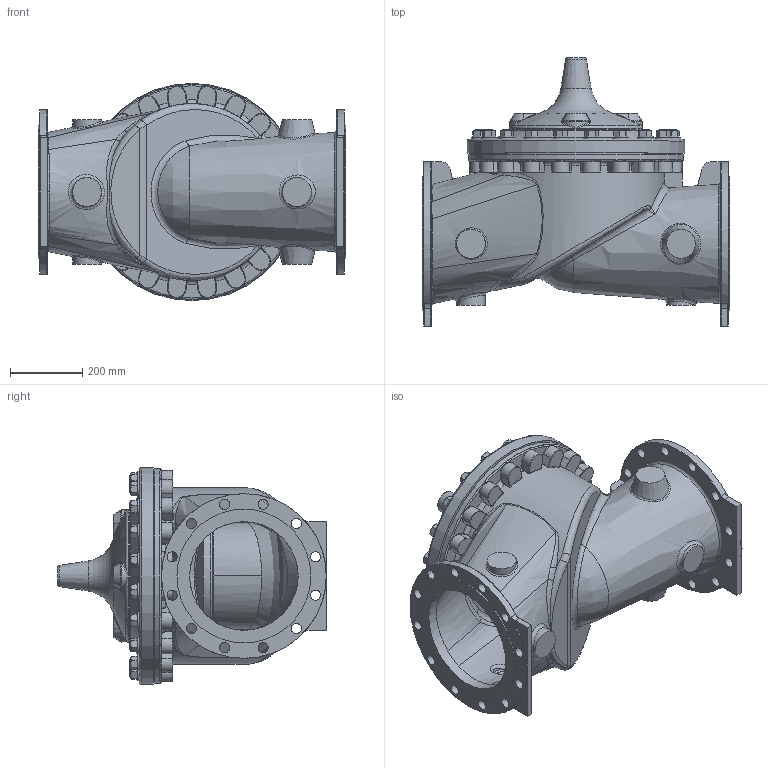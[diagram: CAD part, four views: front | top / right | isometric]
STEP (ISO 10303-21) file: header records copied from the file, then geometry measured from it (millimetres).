
FILE_DESCRIPTION(/* description */ (''),/* implementation_level */ '2;1');
FILE_NAME(/* name */ 'G:\Doc_Liberes\SymbolesCAD\Modeles_3D\FichierSTP\VanneDeBase\NGE300-16RF.stp',/* time_stamp */ '2023-08-17T12:00:06+02:00',/* author */ ('marc'),/* organization */ (''),/* preprocessor_version */ 'ST-DEVELOPER v18.1',/* originating_system */ 'Autodesk Inventor 2022',/* authorisation */ '');
FILE_SCHEMA (('AUTOMOTIVE_DESIGN { 1 0 10303 214 3 1 1 }'));
Products named in the file (1): nge300-16_Simplifier_1
Bounding box: 850 x 741.78 x 599.95 mm (x, y, z)
Volume: 36273209 mm3; surface area: 3870215.1 mm2
Topology: 1 solids, 1 shells, 1707 faces, 4180 edges, 2532 vertices
Faces by surface type: cone 490, plane 452, bspline 307, cylinder 287, torus 169, sphere 2
Full cylindrical faces by diameter (mm): 22.05 x40, 28 x24, 44.45 x20, 68.263 x1, 80 x3, 282.5 x1, 300 x2, 324 x1, 330.2 x1, 330.7 x1, 365.252 x1, 370 x2, 455 x2, 580.5 x1, 581.025 x1, 594 x1, 599.948 x1
Entity records: 76528 total; most frequent: CARTESIAN_POINT 39329, ORIENTED_EDGE 8340, DIRECTION 7353, EDGE_CURVE 4170, AXIS2_PLACEMENT_3D 3321, VERTEX_POINT 2532, CIRCLE 1882, EDGE_LOOP 1866
